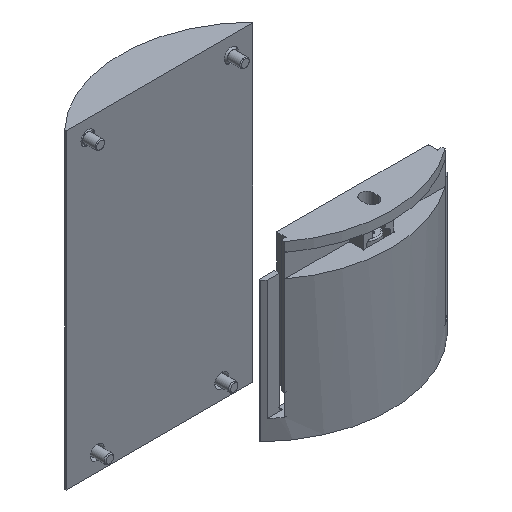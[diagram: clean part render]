
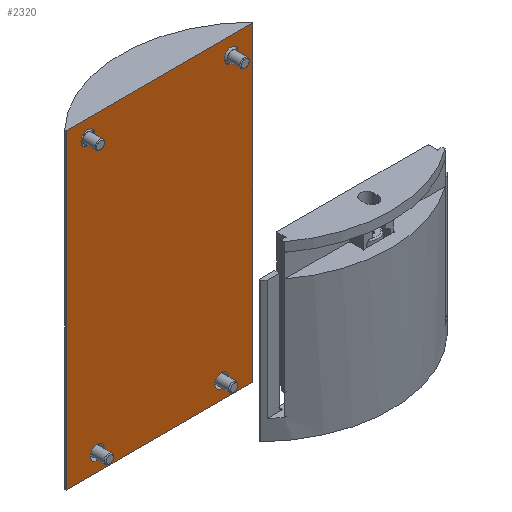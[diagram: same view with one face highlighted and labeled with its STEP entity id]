
A CAD part, isometric view. The second image highlights one B-rep face of the part: STEP entity #2320.
In plain terms, the highlighted planar face has unit normal (0, -1, 0).
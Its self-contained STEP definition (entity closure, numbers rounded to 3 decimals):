
#146=FACE_BOUND('',#395,.T.);
#147=FACE_BOUND('',#396,.T.);
#148=FACE_BOUND('',#397,.T.);
#149=FACE_BOUND('',#398,.T.);
#163=CIRCLE('',#2599,2.25);
#164=CIRCLE('',#2600,2.25);
#165=CIRCLE('',#2601,2.25);
#166=CIRCLE('',#2602,2.25);
#261=FACE_OUTER_BOUND('',#394,.T.);
#394=EDGE_LOOP('',(#1558,#1559,#1560,#1561));
#395=EDGE_LOOP('',(#1562));
#396=EDGE_LOOP('',(#1563));
#397=EDGE_LOOP('',(#1564));
#398=EDGE_LOOP('',(#1565));
#543=LINE('',#3567,#762);
#549=LINE('',#3579,#768);
#550=LINE('',#3581,#769);
#551=LINE('',#3582,#770);
#762=VECTOR('',#2850,10.);
#768=VECTOR('',#2858,10.);
#769=VECTOR('',#2861,10.);
#770=VECTOR('',#2862,10.);
#980=VERTEX_POINT('',#3563);
#982=VERTEX_POINT('',#3566);
#985=VERTEX_POINT('',#3573);
#987=VERTEX_POINT('',#3577);
#988=VERTEX_POINT('',#3583);
#989=VERTEX_POINT('',#3585);
#990=VERTEX_POINT('',#3587);
#991=VERTEX_POINT('',#3589);
#1208=EDGE_CURVE('',#982,#980,#543,.T.);
#1214=EDGE_CURVE('',#985,#987,#549,.T.);
#1215=EDGE_CURVE('',#985,#980,#550,.T.);
#1216=EDGE_CURVE('',#982,#987,#551,.T.);
#1217=EDGE_CURVE('',#988,#988,#163,.T.);
#1218=EDGE_CURVE('',#989,#989,#164,.T.);
#1219=EDGE_CURVE('',#990,#990,#165,.T.);
#1220=EDGE_CURVE('',#991,#991,#166,.T.);
#1558=ORIENTED_EDGE('',*,*,#1208,.T.);
#1559=ORIENTED_EDGE('',*,*,#1215,.F.);
#1560=ORIENTED_EDGE('',*,*,#1214,.T.);
#1561=ORIENTED_EDGE('',*,*,#1216,.F.);
#1562=ORIENTED_EDGE('',*,*,#1217,.T.);
#1563=ORIENTED_EDGE('',*,*,#1218,.T.);
#1564=ORIENTED_EDGE('',*,*,#1219,.T.);
#1565=ORIENTED_EDGE('',*,*,#1220,.T.);
#2238=PLANE('',#2598);
#2320=ADVANCED_FACE('',(#261,#146,#147,#148,#149),#2238,.T.);
#2598=AXIS2_PLACEMENT_3D('',#3580,#2859,#2860);
#2599=AXIS2_PLACEMENT_3D('',#3584,#2863,#2864);
#2600=AXIS2_PLACEMENT_3D('',#3586,#2865,#2866);
#2601=AXIS2_PLACEMENT_3D('',#3588,#2867,#2868);
#2602=AXIS2_PLACEMENT_3D('',#3590,#2869,#2870);
#2850=DIRECTION('',(0.,0.,-1.));
#2858=DIRECTION('',(0.,0.,1.));
#2859=DIRECTION('center_axis',(0.,-1.,0.));
#2860=DIRECTION('ref_axis',(1.,0.,0.));
#2861=DIRECTION('',(-1.,0.,0.));
#2862=DIRECTION('',(1.,0.,0.));
#2863=DIRECTION('center_axis',(0.,1.,0.));
#2864=DIRECTION('ref_axis',(1.,0.,0.));
#2865=DIRECTION('center_axis',(0.,1.,0.));
#2866=DIRECTION('ref_axis',(1.,0.,0.));
#2867=DIRECTION('center_axis',(0.,1.,0.));
#2868=DIRECTION('ref_axis',(1.,0.,0.));
#2869=DIRECTION('center_axis',(0.,1.,0.));
#2870=DIRECTION('ref_axis',(1.,0.,0.));
#3563=CARTESIAN_POINT('',(-30.016,0.,-50.));
#3566=CARTESIAN_POINT('',(-30.016,0.,50.));
#3567=CARTESIAN_POINT('',(-30.016,0.,25.));
#3573=CARTESIAN_POINT('',(30.016,0.,-50.));
#3577=CARTESIAN_POINT('',(30.016,0.,50.));
#3579=CARTESIAN_POINT('',(30.016,0.,25.));
#3580=CARTESIAN_POINT('Origin',(-30.516,0.,0.));
#3581=CARTESIAN_POINT('',(-30.516,0.,-50.));
#3582=CARTESIAN_POINT('',(-30.516,0.,50.));
#3583=CARTESIAN_POINT('',(17.75,0.,-44.5));
#3584=CARTESIAN_POINT('Origin',(20.,0.,-44.5));
#3585=CARTESIAN_POINT('',(-22.25,0.,-44.5));
#3586=CARTESIAN_POINT('Origin',(-20.,0.,-44.5));
#3587=CARTESIAN_POINT('',(-25.25,0.,44.5));
#3588=CARTESIAN_POINT('Origin',(-23.,0.,44.5));
#3589=CARTESIAN_POINT('',(20.75,0.,44.5));
#3590=CARTESIAN_POINT('Origin',(23.,0.,44.5));
